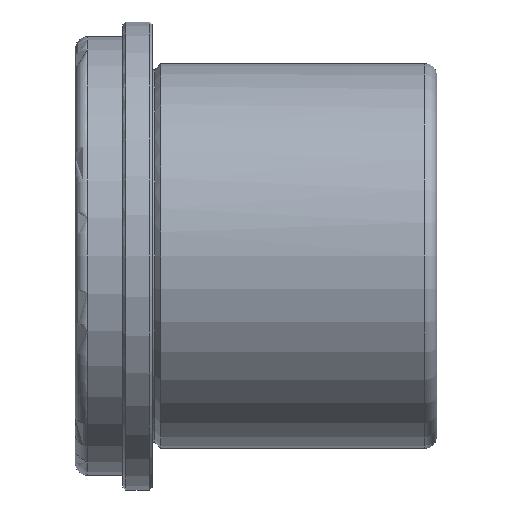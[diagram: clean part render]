
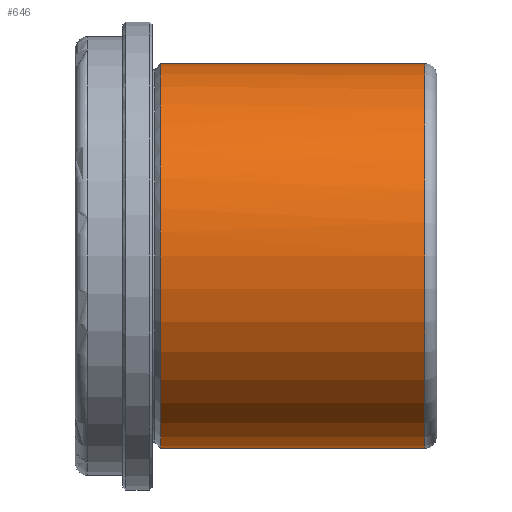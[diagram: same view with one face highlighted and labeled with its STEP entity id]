
A CAD part, front view. The second image highlights one B-rep face of the part: STEP entity #646.
In plain terms, the highlighted cylindrical face has radius 32.5 mm (diameter 65 mm), a partial arc.
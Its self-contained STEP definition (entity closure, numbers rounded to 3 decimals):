
#419=CARTESIAN_POINT('Line Origine',(48.,0.,32.5)) ;
#423=CARTESIAN_POINT('Vertex',(46.,0.,32.5)) ;
#425=CARTESIAN_POINT('Vertex',(1.414,0.,32.5)) ;
#439=CARTESIAN_POINT('Vertex',(46.,0.,-32.5)) ;
#442=CARTESIAN_POINT('Line Origine',(48.,0.,-32.5)) ;
#446=CARTESIAN_POINT('Vertex',(1.414,0.,-32.5)) ;
#603=CARTESIAN_POINT('Axis2P3D Location',(48.,0.,0.)) ;
#608=CARTESIAN_POINT('Axis2P3D Location',(46.,0.,0.)) ;
#612=CARTESIAN_POINT('Vertex',(46.,-32.5,0.)) ;
#615=CARTESIAN_POINT('Axis2P3D Location',(46.,0.,0.)) ;
#621=CARTESIAN_POINT('Control Point',(1.414,0.,32.5)) ;
#622=CARTESIAN_POINT('Control Point',(1.414,-5.105,32.5)) ;
#623=CARTESIAN_POINT('Control Point',(1.414,-10.21,31.498)) ;
#624=CARTESIAN_POINT('Control Point',(1.414,-15.052,29.492)) ;
#625=CARTESIAN_POINT('Control Point',(1.414,-23.69,23.69)) ;
#626=CARTESIAN_POINT('Control Point',(1.414,-29.492,15.052)) ;
#627=CARTESIAN_POINT('Control Point',(1.414,-31.498,10.21)) ;
#628=CARTESIAN_POINT('Control Point',(1.414,-32.5,5.105)) ;
#629=CARTESIAN_POINT('Control Point',(1.414,-32.5,0.)) ;
#630=CARTESIAN_POINT('Vertex',(1.414,-32.5,0.)) ;
#633=CARTESIAN_POINT('Axis2P3D Location',(1.414,0.,0.)) ;
#420=DIRECTION('Vector Direction',(-1.,0.,0.)) ;
#443=DIRECTION('Vector Direction',(-1.,0.,0.)) ;
#604=DIRECTION('Axis2P3D Direction',(-1.,-0.,-0.)) ;
#605=DIRECTION('Axis2P3D XDirection',(0.,0.,-1.)) ;
#609=DIRECTION('Axis2P3D Direction',(-1.,-0.,-0.)) ;
#616=DIRECTION('Axis2P3D Direction',(-1.,-0.,-0.)) ;
#634=DIRECTION('Axis2P3D Direction',(-1.,-0.,-0.)) ;
#606=AXIS2_PLACEMENT_3D('Cylinder Axis2P3D',#603,#604,#605) ;
#610=AXIS2_PLACEMENT_3D('Circle Axis2P3D',#608,#609,$) ;
#617=AXIS2_PLACEMENT_3D('Circle Axis2P3D',#615,#616,$) ;
#635=AXIS2_PLACEMENT_3D('Circle Axis2P3D',#633,#634,$) ;
#639=ORIENTED_EDGE('',*,*,#448,.T.) ;
#640=ORIENTED_EDGE('',*,*,#614,.F.) ;
#641=ORIENTED_EDGE('',*,*,#619,.F.) ;
#642=ORIENTED_EDGE('',*,*,#427,.T.) ;
#643=ORIENTED_EDGE('',*,*,#632,.T.) ;
#644=ORIENTED_EDGE('',*,*,#637,.T.) ;
#421=VECTOR('Line Direction',#420,1.) ;
#444=VECTOR('Line Direction',#443,1.) ;
#646=ADVANCED_FACE('FAMO-SF1-A50 x 61',(#645),#607,.T.) ;
#620=B_SPLINE_CURVE_WITH_KNOTS('',5,(#621,#622,#623,#624,#625,#626,#627,#628,#629),.UNSPECIFIED.,.F.,.U.,(6,3,6),(-25.525,0.,25.525),.UNSPECIFIED.) ;
#611=CIRCLE('generated circle',#610,32.5) ;
#618=CIRCLE('generated circle',#617,32.5) ;
#636=CIRCLE('generated circle',#635,32.5) ;
#607=CYLINDRICAL_SURFACE('generated cylinder',#606,32.5) ;
#427=EDGE_CURVE('',#424,#426,#422,.T.) ;
#448=EDGE_CURVE('',#447,#440,#445,.F.) ;
#614=EDGE_CURVE('',#613,#440,#611,.F.) ;
#619=EDGE_CURVE('',#424,#613,#618,.F.) ;
#632=EDGE_CURVE('',#426,#631,#620,.T.) ;
#637=EDGE_CURVE('',#631,#447,#636,.F.) ;
#638=EDGE_LOOP('',(#639,#640,#641,#642,#643,#644)) ;
#645=FACE_OUTER_BOUND('',#638,.T.) ;
#422=LINE('Line',#419,#421) ;
#445=LINE('Line',#442,#444) ;
#424=VERTEX_POINT('',#423) ;
#426=VERTEX_POINT('',#425) ;
#440=VERTEX_POINT('',#439) ;
#447=VERTEX_POINT('',#446) ;
#613=VERTEX_POINT('',#612) ;
#631=VERTEX_POINT('',#630) ;
